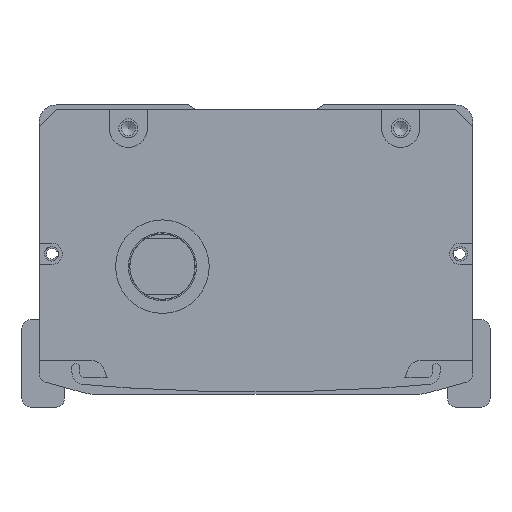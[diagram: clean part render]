
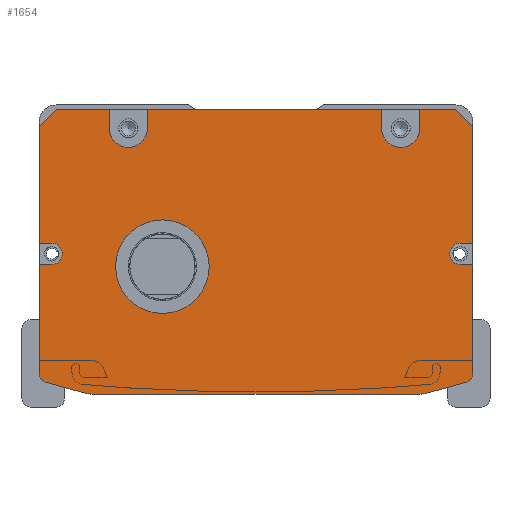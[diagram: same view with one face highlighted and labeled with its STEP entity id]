
A CAD part, front view. The second image highlights one B-rep face of the part: STEP entity #1654.
In plain terms, the highlighted planar face has unit normal (0, -1, 0).
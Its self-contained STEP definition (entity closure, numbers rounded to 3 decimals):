
#990=FACE_BOUND('',#3118,.T.);
#991=FACE_BOUND('',#3119,.T.);
#1654=ADVANCED_FACE('',(#990,#991),#2265,.F.);
#2265=PLANE('',#11995);
#3118=EDGE_LOOP('',(#5507,#5508,#5509,#5510,#5511,#5512,#5513,#5514,#5515,
#5516,#5517,#5518,#5519,#5520,#5521,#5522,#5523,#5524,#5525,#5526,#5527,
#5528,#5529,#5530,#5531,#5532,#5533,#5534));
#3119=EDGE_LOOP('',(#5535));
#4097=CIRCLE('',#11986,4.5);
#4098=CIRCLE('',#11987,4.5);
#4099=CIRCLE('',#11988,2.5);
#4100=CIRCLE('',#11989,2.);
#4101=CIRCLE('',#11990,10.);
#4102=CIRCLE('',#11991,10.);
#4103=CIRCLE('',#11992,2.);
#4104=CIRCLE('',#11993,2.5);
#4105=CIRCLE('',#11994,11.);
#5507=ORIENTED_EDGE('',*,*,#8872,.T.);
#5508=ORIENTED_EDGE('',*,*,#9290,.T.);
#5509=ORIENTED_EDGE('',*,*,#9291,.T.);
#5510=ORIENTED_EDGE('',*,*,#9292,.F.);
#5511=ORIENTED_EDGE('',*,*,#9293,.T.);
#5512=ORIENTED_EDGE('',*,*,#9294,.F.);
#5513=ORIENTED_EDGE('',*,*,#9295,.T.);
#5514=ORIENTED_EDGE('',*,*,#9296,.F.);
#5515=ORIENTED_EDGE('',*,*,#9297,.T.);
#5516=ORIENTED_EDGE('',*,*,#9298,.F.);
#5517=ORIENTED_EDGE('',*,*,#9299,.T.);
#5518=ORIENTED_EDGE('',*,*,#9300,.T.);
#5519=ORIENTED_EDGE('',*,*,#8904,.T.);
#5520=ORIENTED_EDGE('',*,*,#9301,.T.);
#5521=ORIENTED_EDGE('',*,*,#9302,.T.);
#5522=ORIENTED_EDGE('',*,*,#9303,.T.);
#5523=ORIENTED_EDGE('',*,*,#8900,.T.);
#5524=ORIENTED_EDGE('',*,*,#9304,.T.);
#5525=ORIENTED_EDGE('',*,*,#9305,.T.);
#5526=ORIENTED_EDGE('',*,*,#9306,.T.);
#5527=ORIENTED_EDGE('',*,*,#9307,.T.);
#5528=ORIENTED_EDGE('',*,*,#9308,.T.);
#5529=ORIENTED_EDGE('',*,*,#9309,.T.);
#5530=ORIENTED_EDGE('',*,*,#9310,.T.);
#5531=ORIENTED_EDGE('',*,*,#8876,.T.);
#5532=ORIENTED_EDGE('',*,*,#9311,.T.);
#5533=ORIENTED_EDGE('',*,*,#9312,.T.);
#5534=ORIENTED_EDGE('',*,*,#9313,.T.);
#5535=ORIENTED_EDGE('',*,*,#9314,.T.);
#7734=VERTEX_POINT('',#16532);
#7735=VERTEX_POINT('',#16534);
#7738=VERTEX_POINT('',#16540);
#7739=VERTEX_POINT('',#16542);
#7760=VERTEX_POINT('',#16587);
#7761=VERTEX_POINT('',#16589);
#7764=VERTEX_POINT('',#16595);
#7765=VERTEX_POINT('',#16597);
#8030=VERTEX_POINT('',#17394);
#8031=VERTEX_POINT('',#17396);
#8032=VERTEX_POINT('',#17398);
#8033=VERTEX_POINT('',#17400);
#8034=VERTEX_POINT('',#17402);
#8035=VERTEX_POINT('',#17404);
#8036=VERTEX_POINT('',#17406);
#8037=VERTEX_POINT('',#17408);
#8038=VERTEX_POINT('',#17410);
#8039=VERTEX_POINT('',#17412);
#8040=VERTEX_POINT('',#17415);
#8041=VERTEX_POINT('',#17417);
#8042=VERTEX_POINT('',#17420);
#8043=VERTEX_POINT('',#17422);
#8044=VERTEX_POINT('',#17424);
#8045=VERTEX_POINT('',#17426);
#8046=VERTEX_POINT('',#17428);
#8047=VERTEX_POINT('',#17430);
#8048=VERTEX_POINT('',#17433);
#8049=VERTEX_POINT('',#17435);
#8050=VERTEX_POINT('',#17438);
#8872=EDGE_CURVE('',#7735,#7734,#10323,.T.);
#8876=EDGE_CURVE('',#7739,#7738,#10327,.T.);
#8900=EDGE_CURVE('',#7761,#7760,#10351,.T.);
#8904=EDGE_CURVE('',#7765,#7764,#10355,.T.);
#9290=EDGE_CURVE('',#7734,#8030,#10588,.T.);
#9291=EDGE_CURVE('',#8030,#8031,#10589,.T.);
#9292=EDGE_CURVE('',#8032,#8031,#10590,.T.);
#9293=EDGE_CURVE('',#8032,#8033,#4097,.T.);
#9294=EDGE_CURVE('',#8034,#8033,#10591,.T.);
#9295=EDGE_CURVE('',#8034,#8035,#10592,.T.);
#9296=EDGE_CURVE('',#8036,#8035,#10593,.T.);
#9297=EDGE_CURVE('',#8036,#8037,#4098,.T.);
#9298=EDGE_CURVE('',#8038,#8037,#10594,.T.);
#9299=EDGE_CURVE('',#8038,#8039,#10595,.T.);
#9300=EDGE_CURVE('',#8039,#7765,#10596,.T.);
#9301=EDGE_CURVE('',#7764,#8040,#10597,.T.);
#9302=EDGE_CURVE('',#8040,#8041,#4099,.T.);
#9303=EDGE_CURVE('',#8041,#7761,#10598,.T.);
#9304=EDGE_CURVE('',#7760,#8042,#4100,.T.);
#9305=EDGE_CURVE('',#8042,#8043,#10599,.T.);
#9306=EDGE_CURVE('',#8043,#8044,#4101,.T.);
#9307=EDGE_CURVE('',#8044,#8045,#10600,.T.);
#9308=EDGE_CURVE('',#8045,#8046,#4102,.T.);
#9309=EDGE_CURVE('',#8046,#8047,#10601,.T.);
#9310=EDGE_CURVE('',#8047,#7739,#4103,.T.);
#9311=EDGE_CURVE('',#7738,#8048,#10602,.T.);
#9312=EDGE_CURVE('',#8048,#8049,#4104,.T.);
#9313=EDGE_CURVE('',#8049,#7735,#10603,.T.);
#9314=EDGE_CURVE('',#8050,#8050,#4105,.T.);
#10323=LINE('',#16533,#10976);
#10327=LINE('',#16541,#10980);
#10351=LINE('',#16588,#11004);
#10355=LINE('',#16596,#11008);
#10588=LINE('',#17393,#11241);
#10589=LINE('',#17395,#11242);
#10590=LINE('',#17397,#11243);
#10591=LINE('',#17401,#11244);
#10592=LINE('',#17403,#11245);
#10593=LINE('',#17405,#11246);
#10594=LINE('',#17409,#11247);
#10595=LINE('',#17411,#11248);
#10596=LINE('',#17413,#11249);
#10597=LINE('',#17414,#11250);
#10598=LINE('',#17418,#11251);
#10599=LINE('',#17421,#11252);
#10600=LINE('',#17425,#11253);
#10601=LINE('',#17429,#11254);
#10602=LINE('',#17432,#11255);
#10603=LINE('',#17436,#11256);
#10976=VECTOR('',#13198,1.);
#10980=VECTOR('',#13202,1.);
#11004=VECTOR('',#13228,1.);
#11008=VECTOR('',#13232,1.);
#11241=VECTOR('',#14063,1.);
#11242=VECTOR('',#14064,1.);
#11243=VECTOR('',#14065,1.);
#11244=VECTOR('',#14068,1.);
#11245=VECTOR('',#14069,1.);
#11246=VECTOR('',#14070,1.);
#11247=VECTOR('',#14073,1.);
#11248=VECTOR('',#14074,1.);
#11249=VECTOR('',#14075,1.);
#11250=VECTOR('',#14076,1.);
#11251=VECTOR('',#14079,1.);
#11252=VECTOR('',#14082,1.);
#11253=VECTOR('',#14085,1.);
#11254=VECTOR('',#14088,1.);
#11255=VECTOR('',#14091,1.);
#11256=VECTOR('',#14094,1.);
#11986=AXIS2_PLACEMENT_3D('',#17399,#14066,#14067);
#11987=AXIS2_PLACEMENT_3D('',#17407,#14071,#14072);
#11988=AXIS2_PLACEMENT_3D('',#17416,#14077,#14078);
#11989=AXIS2_PLACEMENT_3D('',#17419,#14080,#14081);
#11990=AXIS2_PLACEMENT_3D('',#17423,#14083,#14084);
#11991=AXIS2_PLACEMENT_3D('',#17427,#14086,#14087);
#11992=AXIS2_PLACEMENT_3D('',#17431,#14089,#14090);
#11993=AXIS2_PLACEMENT_3D('',#17434,#14092,#14093);
#11994=AXIS2_PLACEMENT_3D('',#17437,#14095,#14096);
#11995=AXIS2_PLACEMENT_3D('',#17439,#14097,#14098);
#13198=DIRECTION('',(0.,0.,1.));
#13202=DIRECTION('',(0.,0.,1.));
#13228=DIRECTION('',(0.,0.,-1.));
#13232=DIRECTION('',(0.,0.,-1.));
#14063=DIRECTION('',(-0.707,0.,0.707));
#14064=DIRECTION('',(-1.,0.,0.));
#14065=DIRECTION('',(0.,0.,1.));
#14066=DIRECTION('',(0.,1.,0.));
#14067=DIRECTION('',(0.,0.,1.));
#14068=DIRECTION('',(0.,0.,-1.));
#14069=DIRECTION('',(-1.,0.,0.));
#14070=DIRECTION('',(0.,0.,1.));
#14071=DIRECTION('',(0.,1.,0.));
#14072=DIRECTION('',(0.,0.,1.));
#14073=DIRECTION('',(0.,0.,-1.));
#14074=DIRECTION('',(-1.,0.,0.));
#14075=DIRECTION('',(-0.707,0.,-0.707));
#14076=DIRECTION('',(1.,0.,0.));
#14077=DIRECTION('',(0.,1.,0.));
#14078=DIRECTION('',(0.,0.,1.));
#14079=DIRECTION('',(-1.,0.,0.));
#14080=DIRECTION('',(0.,-1.,0.));
#14081=DIRECTION('',(0.,0.,1.));
#14082=DIRECTION('',(0.963,0.,-0.269));
#14083=DIRECTION('',(0.,-1.,0.));
#14084=DIRECTION('',(0.,0.,1.));
#14085=DIRECTION('',(1.,0.,0.));
#14086=DIRECTION('',(0.,-1.,0.));
#14087=DIRECTION('',(0.,0.,-1.));
#14088=DIRECTION('',(0.963,0.,0.269));
#14089=DIRECTION('',(0.,-1.,0.));
#14090=DIRECTION('',(0.,0.,-1.));
#14091=DIRECTION('',(-1.,0.,0.));
#14092=DIRECTION('',(0.,1.,0.));
#14093=DIRECTION('',(0.,0.,1.));
#14094=DIRECTION('',(1.,0.,0.));
#14095=DIRECTION('',(0.,1.,0.));
#14096=DIRECTION('',(0.,0.,1.));
#14097=DIRECTION('',(0.,1.,0.));
#14098=DIRECTION('',(1.,0.,0.));
#16532=CARTESIAN_POINT('',(47.808,-607.5,-5.));
#16533=CARTESIAN_POINT('',(47.808,-607.5,-1.));
#16534=CARTESIAN_POINT('',(47.808,-607.5,-32.5));
#16540=CARTESIAN_POINT('',(47.808,-607.5,-37.5));
#16541=CARTESIAN_POINT('',(47.808,-607.5,-1.));
#16542=CARTESIAN_POINT('',(47.808,-607.5,-63.212));
#16587=CARTESIAN_POINT('',(-54.192,-607.5,-63.212));
#16588=CARTESIAN_POINT('',(-54.192,-607.5,-62.));
#16589=CARTESIAN_POINT('',(-54.192,-607.5,-37.5));
#16595=CARTESIAN_POINT('',(-54.192,-607.5,-32.5));
#16596=CARTESIAN_POINT('',(-54.192,-607.5,-62.));
#16597=CARTESIAN_POINT('',(-54.192,-607.5,-5.));
#17393=CARTESIAN_POINT('',(43.808,-607.5,-1.));
#17394=CARTESIAN_POINT('',(43.808,-607.5,-1.));
#17395=CARTESIAN_POINT('',(-3.192,-607.5,-1.));
#17396=CARTESIAN_POINT('',(35.308,-607.5,-1.));
#17397=CARTESIAN_POINT('',(35.308,-607.5,-1.));
#17398=CARTESIAN_POINT('',(35.308,-607.5,-5.5));
#17399=CARTESIAN_POINT('',(30.808,-607.5,-5.5));
#17400=CARTESIAN_POINT('',(26.308,-607.5,-5.5));
#17401=CARTESIAN_POINT('',(26.308,-607.5,-1.));
#17402=CARTESIAN_POINT('',(26.308,-607.5,-1.));
#17403=CARTESIAN_POINT('',(-54.192,-607.5,-1.));
#17404=CARTESIAN_POINT('',(-28.692,-607.5,-1.));
#17405=CARTESIAN_POINT('',(-28.692,-607.5,-3.5));
#17406=CARTESIAN_POINT('',(-28.692,-607.5,-5.5));
#17407=CARTESIAN_POINT('',(-33.192,-607.5,-5.5));
#17408=CARTESIAN_POINT('',(-37.692,-607.5,-5.5));
#17409=CARTESIAN_POINT('',(-37.692,-607.5,-1.));
#17410=CARTESIAN_POINT('',(-37.692,-607.5,-1.));
#17411=CARTESIAN_POINT('',(-54.192,-607.5,-1.));
#17412=CARTESIAN_POINT('',(-50.192,-607.5,-1.));
#17413=CARTESIAN_POINT('',(-54.192,-607.5,-5.));
#17414=CARTESIAN_POINT('',(-3.192,-607.5,-32.5));
#17415=CARTESIAN_POINT('',(-51.192,-607.5,-32.5));
#17416=CARTESIAN_POINT('',(-51.192,-607.5,-35.));
#17417=CARTESIAN_POINT('',(-51.192,-607.5,-37.5));
#17418=CARTESIAN_POINT('',(-3.192,-607.5,-37.5));
#17419=CARTESIAN_POINT('',(-52.192,-607.5,-63.212));
#17420=CARTESIAN_POINT('',(-52.731,-607.5,-65.138));
#17421=CARTESIAN_POINT('',(-55.807,-607.5,-64.279));
#17422=CARTESIAN_POINT('',(-43.809,-607.5,-67.631));
#17423=CARTESIAN_POINT('',(-41.118,-607.5,-58.));
#17424=CARTESIAN_POINT('',(-41.118,-607.5,-68.));
#17425=CARTESIAN_POINT('',(-54.692,-607.5,-68.));
#17426=CARTESIAN_POINT('',(34.733,-607.5,-68.));
#17427=CARTESIAN_POINT('',(34.733,-607.5,-58.));
#17428=CARTESIAN_POINT('',(37.424,-607.5,-67.631));
#17429=CARTESIAN_POINT('',(49.422,-607.5,-64.279));
#17430=CARTESIAN_POINT('',(46.346,-607.5,-65.138));
#17431=CARTESIAN_POINT('',(45.808,-607.5,-63.212));
#17432=CARTESIAN_POINT('',(-3.192,-607.5,-37.5));
#17433=CARTESIAN_POINT('',(44.808,-607.5,-37.5));
#17434=CARTESIAN_POINT('',(44.808,-607.5,-35.));
#17435=CARTESIAN_POINT('',(44.808,-607.5,-32.5));
#17436=CARTESIAN_POINT('',(-3.192,-607.5,-32.5));
#17437=CARTESIAN_POINT('',(-25.192,-607.5,-38.));
#17438=CARTESIAN_POINT('',(-25.192,-607.5,-27.));
#17439=CARTESIAN_POINT('',(-3.192,-607.5,-1.));
